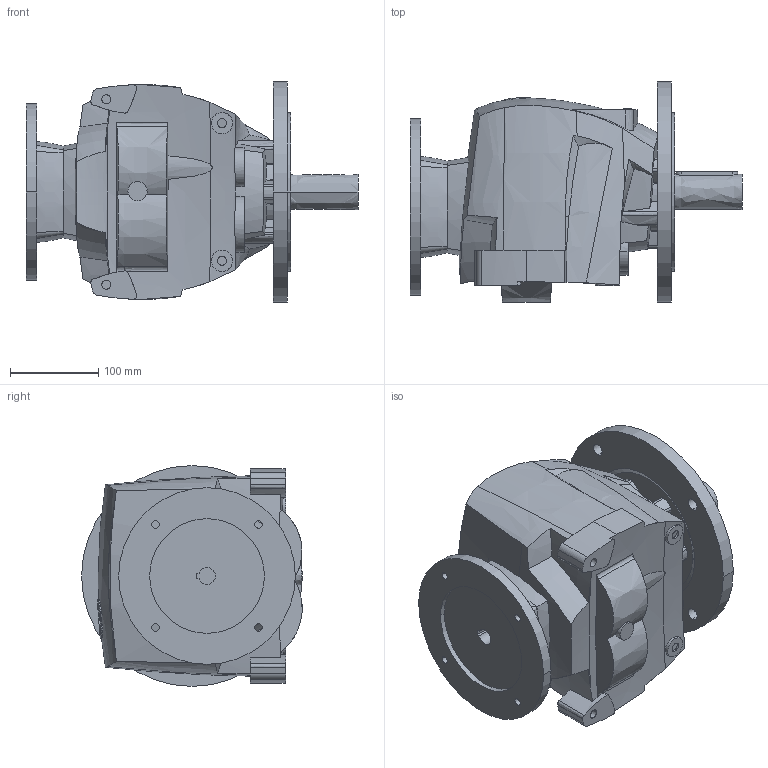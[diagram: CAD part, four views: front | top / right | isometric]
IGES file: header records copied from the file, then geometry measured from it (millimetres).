
Start section:  PTC IGES file: r35_250_pam80_d2.igs
Global section: file name: r35_250_pam80_d2.igs; native system: Pro/ENGINEER by Parametric Technology Corporation; preprocessor: 2008230; author: Luca; organization: Unknown; date: 20131126.095525; units: millimetre
Bounding box: 376.06 x 250 x 250 mm (x, y, z)
Volume: 9578344.3 mm3; surface area: 442516.3 mm2
Topology: 1 solids, 15 shells, 463 faces, 1210 edges, 813 vertices
Faces by surface type: revolution 207, bspline 164, extrusion 92
